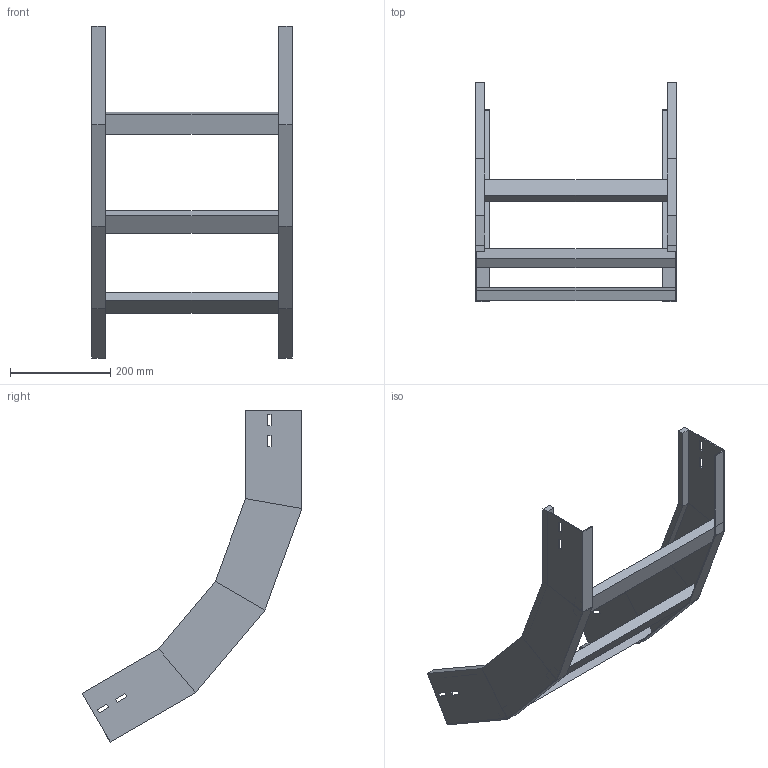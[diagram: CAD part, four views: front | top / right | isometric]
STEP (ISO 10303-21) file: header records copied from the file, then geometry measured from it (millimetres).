
FILE_DESCRIPTION (( 'STEP AP214' ), '1' );
FILE_NAME ('A2X40B5J400XX.step', '2025-03-20T10:14:41', ( '' ), ( '' ), 'SwSTEP 2.0', 'SolidWorks 2023', '' );
FILE_SCHEMA (( 'AUTOMOTIVE_DESIGN' ));
Length unit declared in the file: millimetre
Products named in the file (3): LONGH.SALITA_60°_H112.5_R500; A2X40B5J400XX; TRAVERSINO_400
Assembly tree (5 placements, depth 2):
  A2X40B5J400XX
    LONGH.SALITA_60°_H112.5_R500  x2
    TRAVERSINO_400  x3
Bounding box: 400 x 438.74 x 662.49 mm (x, y, z)
Volume: 1659466.9 mm3; surface area: 627019.8 mm2
Topology: 5 solids, 5 shells, 118 faces, 276 edges, 168 vertices
Faces by surface type: plane 118
Entity records: 1672 total; most frequent: CARTESIAN_POINT 276, ORIENTED_EDGE 264, DIRECTION 260, VECTOR 132, LINE 132, EDGE_CURVE 132, VERTEX_POINT 80, EDGE_LOOP 64
